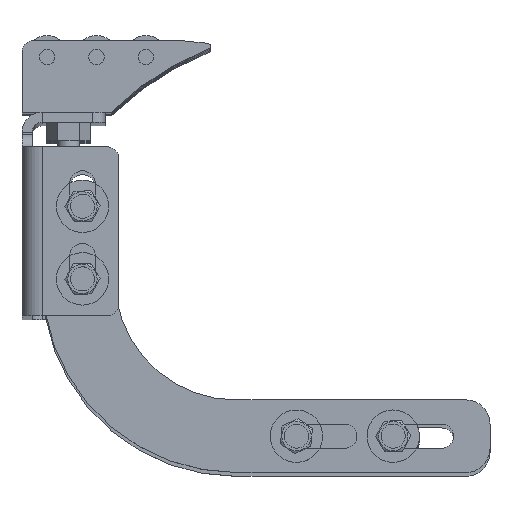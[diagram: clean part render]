
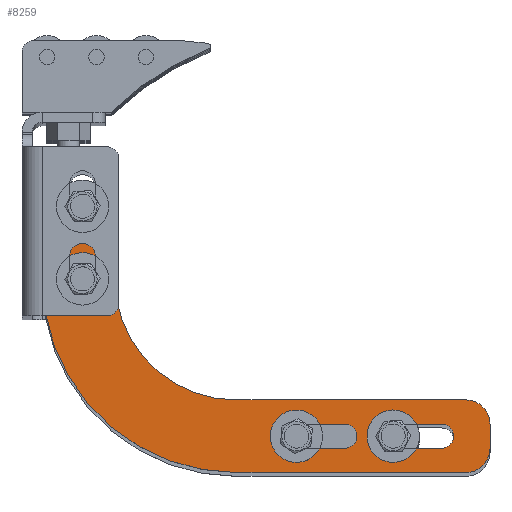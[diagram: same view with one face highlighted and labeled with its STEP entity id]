
A CAD part, top view. The second image highlights one B-rep face of the part: STEP entity #8259.
In plain terms, the highlighted planar face has unit normal (0, 0, 1) as drawn and (0, 0, -1) by its records, which use the part's own axes.
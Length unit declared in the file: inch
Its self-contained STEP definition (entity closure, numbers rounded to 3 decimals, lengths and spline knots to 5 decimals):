
#7705=DIRECTION('',(0.,-1.,0.));
#7706=VECTOR('',#7705,0.75);
#7707=CARTESIAN_POINT('',(0.,2.75,-0.25));
#7708=LINE('',#7707,#7706);
#7709=CARTESIAN_POINT('',(-0.25,2.75,-0.25));
#7710=DIRECTION('',(0.,0.,-1.));
#7711=DIRECTION('',(0.,1.,0.));
#7712=AXIS2_PLACEMENT_3D('',#7709,#7710,#7711);
#7714=DIRECTION('',(1.,0.,0.));
#7715=VECTOR('',#7714,0.25);
#7716=CARTESIAN_POINT('',(-0.5,3.,-0.25));
#7717=LINE('',#7716,#7715);
#7718=CARTESIAN_POINT('',(-0.5,2.75,-0.25));
#7719=DIRECTION('',(0.,0.,-1.));
#7720=DIRECTION('',(-1.,0.,0.));
#7721=AXIS2_PLACEMENT_3D('',#7718,#7719,#7720);
#7723=DIRECTION('',(0.,1.,0.));
#7724=VECTOR('',#7723,0.75);
#7725=CARTESIAN_POINT('',(-0.75,2.,-0.25));
#7726=LINE('',#7725,#7724);
#7727=CARTESIAN_POINT('',(-2.,2.,-0.25));
#7728=DIRECTION('',(0.,0.,1.));
#7729=DIRECTION('',(0.,-1.,0.));
#7730=AXIS2_PLACEMENT_3D('',#7727,#7728,#7729);
#7732=DIRECTION('',(1.,0.,0.));
#7733=VECTOR('',#7732,2.375);
#7734=CARTESIAN_POINT('',(-4.375,0.75,-0.25));
#7735=LINE('',#7734,#7733);
#7736=CARTESIAN_POINT('',(-4.375,0.5,-0.25));
#7737=DIRECTION('',(0.,0.,-1.));
#7738=DIRECTION('',(-1.,0.,0.));
#7739=AXIS2_PLACEMENT_3D('',#7736,#7737,#7738);
#7741=DIRECTION('',(0.,1.,0.));
#7742=VECTOR('',#7741,0.25);
#7743=CARTESIAN_POINT('',(-4.625,0.25,-0.25));
#7744=LINE('',#7743,#7742);
#7745=CARTESIAN_POINT('',(-4.375,0.25,-0.25));
#7746=DIRECTION('',(0.,0.,-1.));
#7747=DIRECTION('',(0.,-1.,0.));
#7748=AXIS2_PLACEMENT_3D('',#7745,#7746,#7747);
#7750=DIRECTION('',(-1.,0.,0.));
#7751=VECTOR('',#7750,2.375);
#7752=CARTESIAN_POINT('',(-2.,0.,-0.25));
#7753=LINE('',#7752,#7751);
#7754=CARTESIAN_POINT('',(-2.,2.,-0.25));
#7755=DIRECTION('',(0.,0.,-1.));
#7756=DIRECTION('',(1.,0.,0.));
#7757=AXIS2_PLACEMENT_3D('',#7754,#7755,#7756);
#7759=CARTESIAN_POINT('',(-0.4145,2.,-0.25));
#7760=DIRECTION('',(0.,0.,1.));
#7761=DIRECTION('',(1.,0.,0.));
#7762=AXIS2_PLACEMENT_3D('',#7759,#7760,#7761);
#7764=CARTESIAN_POINT('',(-0.4145,2.,-0.25));
#7765=DIRECTION('',(0.,0.,1.));
#7766=DIRECTION('',(-1.,0.,0.));
#7767=AXIS2_PLACEMENT_3D('',#7764,#7765,#7766);
#7769=CARTESIAN_POINT('',(-0.4145,2.75,-0.25));
#7770=DIRECTION('',(0.,0.,1.));
#7771=DIRECTION('',(1.,0.,0.));
#7772=AXIS2_PLACEMENT_3D('',#7769,#7770,#7771);
#7774=CARTESIAN_POINT('',(-0.4145,2.75,-0.25));
#7775=DIRECTION('',(0.,0.,1.));
#7776=DIRECTION('',(-1.,0.,0.));
#7777=AXIS2_PLACEMENT_3D('',#7774,#7775,#7776);
#7779=CARTESIAN_POINT('',(-2.625,0.375,-0.25));
#7780=DIRECTION('',(0.,0.,1.));
#7781=DIRECTION('',(1.,0.,0.));
#7782=AXIS2_PLACEMENT_3D('',#7779,#7780,#7781);
#7784=CARTESIAN_POINT('',(-2.625,0.375,-0.25));
#7785=DIRECTION('',(0.,0.,1.));
#7786=DIRECTION('',(0.,-1.,0.));
#7787=AXIS2_PLACEMENT_3D('',#7784,#7785,#7786);
#7789=CARTESIAN_POINT('',(-3.125,0.375,-0.25));
#7790=DIRECTION('',(0.,0.,1.));
#7791=DIRECTION('',(-1.,0.,0.));
#7792=AXIS2_PLACEMENT_3D('',#7789,#7790,#7791);
#7794=CARTESIAN_POINT('',(-3.125,0.375,-0.25));
#7795=DIRECTION('',(0.,0.,1.));
#7796=DIRECTION('',(0.,1.,0.));
#7797=AXIS2_PLACEMENT_3D('',#7794,#7795,#7796);
#7799=CARTESIAN_POINT('',(-3.625,0.375,-0.25));
#7800=DIRECTION('',(0.,0.,1.));
#7801=DIRECTION('',(1.,0.,0.));
#7802=AXIS2_PLACEMENT_3D('',#7799,#7800,#7801);
#7804=CARTESIAN_POINT('',(-3.625,0.375,-0.25));
#7805=DIRECTION('',(0.,0.,1.));
#7806=DIRECTION('',(0.,-1.,0.));
#7807=AXIS2_PLACEMENT_3D('',#7804,#7805,#7806);
#7809=CARTESIAN_POINT('',(-4.125,0.375,-0.25));
#7810=DIRECTION('',(0.,0.,1.));
#7811=DIRECTION('',(-1.,0.,0.));
#7812=AXIS2_PLACEMENT_3D('',#7809,#7810,#7811);
#7814=CARTESIAN_POINT('',(-4.125,0.375,-0.25));
#7815=DIRECTION('',(0.,0.,1.));
#7816=DIRECTION('',(0.,1.,0.));
#7817=AXIS2_PLACEMENT_3D('',#7814,#7815,#7816);
#8013=DIRECTION('',(1.,0.,0.));
#8014=VECTOR('',#8013,0.5);
#8015=CARTESIAN_POINT('',(-3.125,0.5,-0.25));
#8016=LINE('',#8015,#8014);
#8029=DIRECTION('',(-1.,0.,0.));
#8030=VECTOR('',#8029,0.5);
#8031=CARTESIAN_POINT('',(-2.625,0.25,-0.25));
#8032=LINE('',#8031,#8030);
#8041=DIRECTION('',(1.,0.,0.));
#8042=VECTOR('',#8041,0.5);
#8043=CARTESIAN_POINT('',(-4.125,0.5,-0.25));
#8044=LINE('',#8043,#8042);
#8057=DIRECTION('',(-1.,0.,0.));
#8058=VECTOR('',#8057,0.5);
#8059=CARTESIAN_POINT('',(-3.625,0.25,-0.25));
#8060=LINE('',#8059,#8058);
#8061=CARTESIAN_POINT('',(-3.625,0.25,-0.25));
#8062=CARTESIAN_POINT('',(-4.125,0.25,-0.25));
#8063=VERTEX_POINT('',#8061);
#8064=VERTEX_POINT('',#8062);
#8066=CARTESIAN_POINT('',(-0.5,3.,-0.25));
#8068=VERTEX_POINT('',#8066);
#8073=CARTESIAN_POINT('',(-3.125,0.5,-0.25));
#8075=VERTEX_POINT('',#8073);
#8087=CARTESIAN_POINT('',(-2.,0.75,-0.25));
#8088=VERTEX_POINT('',#8087);
#8090=CARTESIAN_POINT('',(-0.51293,2.,-0.25));
#8092=VERTEX_POINT('',#8090);
#8094=CARTESIAN_POINT('',(-2.,0.,-0.25));
#8096=VERTEX_POINT('',#8094);
#8101=CARTESIAN_POINT('',(-4.125,0.5,-0.25));
#8102=CARTESIAN_POINT('',(-4.25,0.375,-0.25));
#8103=VERTEX_POINT('',#8101);
#8104=VERTEX_POINT('',#8102);
#8105=CARTESIAN_POINT('',(-0.51293,2.75,-0.25));
#8106=CARTESIAN_POINT('',(-0.31607,2.75,-0.25));
#8107=VERTEX_POINT('',#8105);
#8108=VERTEX_POINT('',#8106);
#8111=CARTESIAN_POINT('',(-2.625,0.25,-0.25));
#8113=VERTEX_POINT('',#8111);
#8120=CARTESIAN_POINT('',(0.,2.75,-0.25));
#8122=VERTEX_POINT('',#8120);
#8123=CARTESIAN_POINT('',(-4.375,0.,-0.25));
#8124=VERTEX_POINT('',#8123);
#8127=CARTESIAN_POINT('',(-0.75,2.,-0.25));
#8128=VERTEX_POINT('',#8127);
#8135=CARTESIAN_POINT('',(0.,2.,-0.25));
#8136=VERTEX_POINT('',#8135);
#8137=CARTESIAN_POINT('',(-0.31607,2.,-0.25));
#8138=VERTEX_POINT('',#8137);
#8143=CARTESIAN_POINT('',(-0.75,2.75,-0.25));
#8144=VERTEX_POINT('',#8143);
#8149=CARTESIAN_POINT('',(-0.25,3.,-0.25));
#8150=VERTEX_POINT('',#8149);
#8151=CARTESIAN_POINT('',(-3.125,0.25,-0.25));
#8152=VERTEX_POINT('',#8151);
#8155=CARTESIAN_POINT('',(-4.625,0.25,-0.25));
#8156=CARTESIAN_POINT('',(-4.625,0.5,-0.25));
#8157=VERTEX_POINT('',#8155);
#8158=VERTEX_POINT('',#8156);
#8159=CARTESIAN_POINT('',(-3.625,0.5,-0.25));
#8160=VERTEX_POINT('',#8159);
#8163=CARTESIAN_POINT('',(-3.25,0.375,-0.25));
#8164=VERTEX_POINT('',#8163);
#8165=CARTESIAN_POINT('',(-3.5,0.375,-0.25));
#8166=VERTEX_POINT('',#8165);
#8167=CARTESIAN_POINT('',(-4.375,0.75,-0.25));
#8168=VERTEX_POINT('',#8167);
#8169=CARTESIAN_POINT('',(-2.5,0.375,-0.25));
#8170=VERTEX_POINT('',#8169);
#8171=CARTESIAN_POINT('',(-2.625,0.5,-0.25));
#8172=VERTEX_POINT('',#8171);
#8189=CARTESIAN_POINT('',(0.,0.,-0.25));
#8190=DIRECTION('',(0.,0.,1.));
#8191=DIRECTION('',(1.,0.,0.));
#8192=AXIS2_PLACEMENT_3D('',#8189,#8190,#8191);
#8193=PLANE('',#8192);
#8195=ORIENTED_EDGE('',*,*,#8194,.F.);
#8197=ORIENTED_EDGE('',*,*,#8196,.F.);
#8199=ORIENTED_EDGE('',*,*,#8198,.F.);
#8201=ORIENTED_EDGE('',*,*,#8200,.F.);
#8203=ORIENTED_EDGE('',*,*,#8202,.F.);
#8204=ORIENTED_EDGE('',*,*,#8178,.F.);
#8206=ORIENTED_EDGE('',*,*,#8205,.F.);
#8208=ORIENTED_EDGE('',*,*,#8207,.F.);
#8210=ORIENTED_EDGE('',*,*,#8209,.F.);
#8212=ORIENTED_EDGE('',*,*,#8211,.F.);
#8214=ORIENTED_EDGE('',*,*,#8213,.F.);
#8216=ORIENTED_EDGE('',*,*,#8215,.F.);
#8217=EDGE_LOOP('',(#8195,#8197,#8199,#8201,#8203,#8204,#8206,#8208,#8210,#8212,
#8214,#8216));
#8218=FACE_OUTER_BOUND('',#8217,.F.);
#8220=ORIENTED_EDGE('',*,*,#8219,.F.);
#8222=ORIENTED_EDGE('',*,*,#8221,.F.);
#8223=EDGE_LOOP('',(#8220,#8222));
#8224=FACE_BOUND('',#8223,.F.);
#8226=ORIENTED_EDGE('',*,*,#8225,.F.);
#8228=ORIENTED_EDGE('',*,*,#8227,.F.);
#8229=EDGE_LOOP('',(#8226,#8228));
#8230=FACE_BOUND('',#8229,.F.);
#8232=ORIENTED_EDGE('',*,*,#8231,.T.);
#8234=ORIENTED_EDGE('',*,*,#8233,.F.);
#8236=ORIENTED_EDGE('',*,*,#8235,.F.);
#8238=ORIENTED_EDGE('',*,*,#8237,.T.);
#8240=ORIENTED_EDGE('',*,*,#8239,.F.);
#8242=ORIENTED_EDGE('',*,*,#8241,.F.);
#8243=EDGE_LOOP('',(#8232,#8234,#8236,#8238,#8240,#8242));
#8244=FACE_BOUND('',#8243,.F.);
#8246=ORIENTED_EDGE('',*,*,#8245,.T.);
#8248=ORIENTED_EDGE('',*,*,#8247,.F.);
#8250=ORIENTED_EDGE('',*,*,#8249,.F.);
#8252=ORIENTED_EDGE('',*,*,#8251,.T.);
#8254=ORIENTED_EDGE('',*,*,#8253,.F.);
#8256=ORIENTED_EDGE('',*,*,#8255,.F.);
#8257=EDGE_LOOP('',(#8246,#8248,#8250,#8252,#8254,#8256));
#8258=FACE_BOUND('',#8257,.F.);
#7713=CIRCLE('',#7712,0.25);
#7722=CIRCLE('',#7721,0.25);
#7731=CIRCLE('',#7730,1.25);
#7740=CIRCLE('',#7739,0.25);
#7749=CIRCLE('',#7748,0.25);
#7758=CIRCLE('',#7757,2.);
#7763=CIRCLE('',#7762,0.09843);
#7768=CIRCLE('',#7767,0.09843);
#7773=CIRCLE('',#7772,0.09843);
#7778=CIRCLE('',#7777,0.09843);
#7783=CIRCLE('',#7782,0.125);
#7788=CIRCLE('',#7787,0.125);
#7793=CIRCLE('',#7792,0.125);
#7798=CIRCLE('',#7797,0.125);
#7803=CIRCLE('',#7802,0.125);
#7808=CIRCLE('',#7807,0.125);
#7813=CIRCLE('',#7812,0.125);
#7818=CIRCLE('',#7817,0.125);
#8178=EDGE_CURVE('',#8088,#8128,#7731,.T.);
#8194=EDGE_CURVE('',#8122,#8136,#7708,.T.);
#8196=EDGE_CURVE('',#8150,#8122,#7713,.T.);
#8198=EDGE_CURVE('',#8068,#8150,#7717,.T.);
#8200=EDGE_CURVE('',#8144,#8068,#7722,.T.);
#8202=EDGE_CURVE('',#8128,#8144,#7726,.T.);
#8205=EDGE_CURVE('',#8168,#8088,#7735,.T.);
#8207=EDGE_CURVE('',#8158,#8168,#7740,.T.);
#8209=EDGE_CURVE('',#8157,#8158,#7744,.T.);
#8211=EDGE_CURVE('',#8124,#8157,#7749,.T.);
#8213=EDGE_CURVE('',#8096,#8124,#7753,.T.);
#8215=EDGE_CURVE('',#8136,#8096,#7758,.T.);
#8219=EDGE_CURVE('',#8138,#8092,#7763,.T.);
#8221=EDGE_CURVE('',#8092,#8138,#7768,.T.);
#8225=EDGE_CURVE('',#8108,#8107,#7773,.T.);
#8227=EDGE_CURVE('',#8107,#8108,#7778,.T.);
#8231=EDGE_CURVE('',#8075,#8172,#8016,.T.);
#8233=EDGE_CURVE('',#8170,#8172,#7783,.T.);
#8235=EDGE_CURVE('',#8113,#8170,#7788,.T.);
#8237=EDGE_CURVE('',#8113,#8152,#8032,.T.);
#8239=EDGE_CURVE('',#8164,#8152,#7793,.T.);
#8241=EDGE_CURVE('',#8075,#8164,#7798,.T.);
#8245=EDGE_CURVE('',#8103,#8160,#8044,.T.);
#8247=EDGE_CURVE('',#8166,#8160,#7803,.T.);
#8249=EDGE_CURVE('',#8063,#8166,#7808,.T.);
#8251=EDGE_CURVE('',#8063,#8064,#8060,.T.);
#8253=EDGE_CURVE('',#8104,#8064,#7813,.T.);
#8255=EDGE_CURVE('',#8103,#8104,#7818,.T.);
#8259=ADVANCED_FACE('',(#8218,#8224,#8230,#8244,#8258),#8193,.F.);
